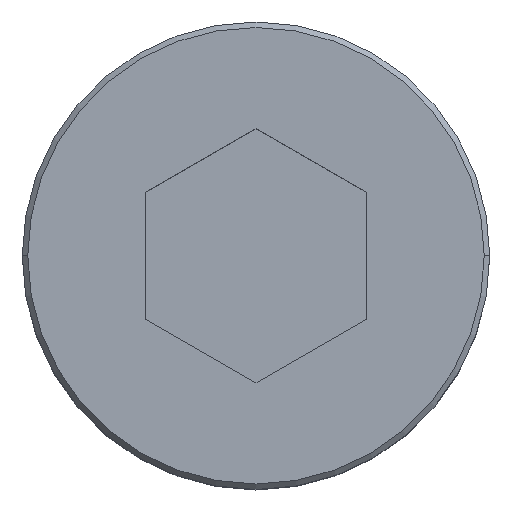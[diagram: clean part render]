
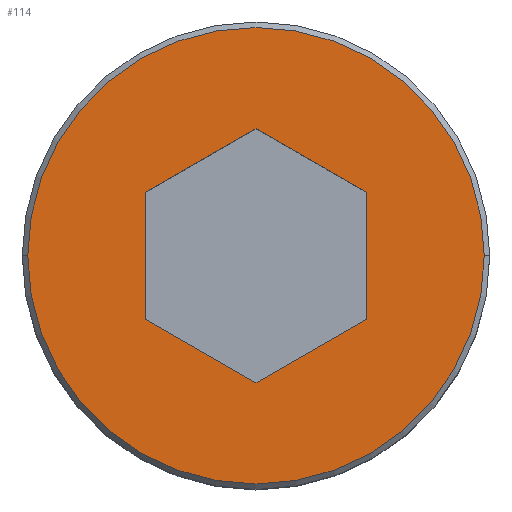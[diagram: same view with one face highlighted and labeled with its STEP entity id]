
A CAD part, top view. The second image highlights one B-rep face of the part: STEP entity #114.
In plain terms, the highlighted planar face has unit normal (0, 0, 1).
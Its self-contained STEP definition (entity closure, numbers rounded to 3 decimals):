
#7 = DIRECTION ( 'NONE',  ( 0.866, 0.5, 0. ) ) ;
#16 = CARTESIAN_POINT ( 'NONE',  ( -4.15, 0., 5. ) ) ;
#19 = VERTEX_POINT ( 'NONE', #282 ) ;
#46 = CARTESIAN_POINT ( 'NONE',  ( 0., 2.309, 5. ) ) ;
#48 = VERTEX_POINT ( 'NONE', #439 ) ;
#54 = LINE ( 'NONE', #203, #166 ) ;
#61 = DIRECTION ( 'NONE',  ( 0.866, -0.5, 0. ) ) ;
#62 = DIRECTION ( 'NONE',  ( 1., 0., 0. ) ) ;
#71 = ORIENTED_EDGE ( 'NONE', *, *, #201, .T. ) ;
#92 = VECTOR ( 'NONE', #177, 1000. ) ;
#94 = DIRECTION ( 'NONE',  ( 0., -1., 0. ) ) ;
#99 = VERTEX_POINT ( 'NONE', #206 ) ;
#102 = CARTESIAN_POINT ( 'NONE',  ( 0., 0., 5. ) ) ;
#108 = ORIENTED_EDGE ( 'NONE', *, *, #430, .F. ) ;
#109 = DIRECTION ( 'NONE',  ( -0.866, 0.5, 0. ) ) ;
#112 = CARTESIAN_POINT ( 'NONE',  ( 2., 1.155, 5. ) ) ;
#114 = ADVANCED_FACE ( 'NONE', ( #253, #413 ), #449, .T. ) ;
#115 = CARTESIAN_POINT ( 'NONE',  ( 0., 2.309, 5. ) ) ;
#118 = LINE ( 'NONE', #46, #476 ) ;
#124 = CIRCLE ( 'NONE', #457, 4.15 ) ;
#129 = EDGE_CURVE ( 'NONE', #416, #99, #54, .T. ) ;
#131 = VECTOR ( 'NONE', #61, 1000. ) ;
#133 = EDGE_CURVE ( 'NONE', #99, #48, #252, .T. ) ;
#139 = VECTOR ( 'NONE', #7, 1000. ) ;
#140 = VERTEX_POINT ( 'NONE', #16 ) ;
#144 = DIRECTION ( 'NONE',  ( 0., 0., 1. ) ) ;
#156 = CARTESIAN_POINT ( 'NONE',  ( -2., 1.155, 5. ) ) ;
#166 = VECTOR ( 'NONE', #94, 1000. ) ;
#177 = DIRECTION ( 'NONE',  ( 0., 1., 0. ) ) ;
#184 = DIRECTION ( 'NONE',  ( 1., 0., 0. ) ) ;
#201 = EDGE_CURVE ( 'NONE', #350, #140, #268, .T. ) ;
#203 = CARTESIAN_POINT ( 'NONE',  ( -2., 1.155, 5. ) ) ;
#206 = CARTESIAN_POINT ( 'NONE',  ( -2., -1.155, 5. ) ) ;
#214 = EDGE_CURVE ( 'NONE', #19, #297, #265, .T. ) ;
#219 = ORIENTED_EDGE ( 'NONE', *, *, #133, .F. ) ;
#220 = LINE ( 'NONE', #225, #251 ) ;
#224 = EDGE_CURVE ( 'NONE', #297, #393, #220, .T. ) ;
#225 = CARTESIAN_POINT ( 'NONE',  ( 2., 1.155, 5. ) ) ;
#236 = ORIENTED_EDGE ( 'NONE', *, *, #373, .F. ) ;
#237 = DIRECTION ( 'NONE',  ( -0.866, -0.5, 0. ) ) ;
#251 = VECTOR ( 'NONE', #109, 1000. ) ;
#252 = LINE ( 'NONE', #491, #131 ) ;
#253 = FACE_BOUND ( 'NONE', #387, .T. ) ;
#265 = LINE ( 'NONE', #390, #92 ) ;
#268 = CIRCLE ( 'NONE', #501, 4.15 ) ;
#282 = CARTESIAN_POINT ( 'NONE',  ( 2., -1.155, 5. ) ) ;
#289 = CARTESIAN_POINT ( 'NONE',  ( 4.15, 0., 5. ) ) ;
#297 = VERTEX_POINT ( 'NONE', #112 ) ;
#327 = DIRECTION ( 'NONE',  ( 1., 0., 0. ) ) ;
#329 = EDGE_CURVE ( 'NONE', #140, #350, #124, .T. ) ;
#349 = CARTESIAN_POINT ( 'NONE',  ( 0., -2.309, 5. ) ) ;
#350 = VERTEX_POINT ( 'NONE', #289 ) ;
#358 = LINE ( 'NONE', #349, #139 ) ;
#373 = EDGE_CURVE ( 'NONE', #393, #416, #118, .T. ) ;
#376 = CARTESIAN_POINT ( 'NONE',  ( 0., 0., 5. ) ) ;
#387 = EDGE_LOOP ( 'NONE', ( #397, #460, #108, #219, #511, #236 ) ) ;
#390 = CARTESIAN_POINT ( 'NONE',  ( 2., -1.155, 5. ) ) ;
#393 = VERTEX_POINT ( 'NONE', #115 ) ;
#397 = ORIENTED_EDGE ( 'NONE', *, *, #224, .F. ) ;
#413 = FACE_OUTER_BOUND ( 'NONE', #424, .T. ) ;
#416 = VERTEX_POINT ( 'NONE', #156 ) ;
#418 = CARTESIAN_POINT ( 'NONE',  ( 0., 0., 5. ) ) ;
#420 = ORIENTED_EDGE ( 'NONE', *, *, #329, .T. ) ;
#424 = EDGE_LOOP ( 'NONE', ( #420, #71 ) ) ;
#430 = EDGE_CURVE ( 'NONE', #48, #19, #358, .T. ) ;
#439 = CARTESIAN_POINT ( 'NONE',  ( 0., -2.309, 5. ) ) ;
#443 = AXIS2_PLACEMENT_3D ( 'NONE', #376, #455, #327 ) ;
#449 = PLANE ( 'NONE',  #443 ) ;
#455 = DIRECTION ( 'NONE',  ( 0., 0., 1. ) ) ;
#457 = AXIS2_PLACEMENT_3D ( 'NONE', #418, #144, #62 ) ;
#460 = ORIENTED_EDGE ( 'NONE', *, *, #214, .F. ) ;
#476 = VECTOR ( 'NONE', #237, 1000. ) ;
#491 = CARTESIAN_POINT ( 'NONE',  ( -2., -1.155, 5. ) ) ;
#501 = AXIS2_PLACEMENT_3D ( 'NONE', #102, #503, #184 ) ;
#503 = DIRECTION ( 'NONE',  ( 0., 0., 1. ) ) ;
#511 = ORIENTED_EDGE ( 'NONE', *, *, #129, .F. ) ;
